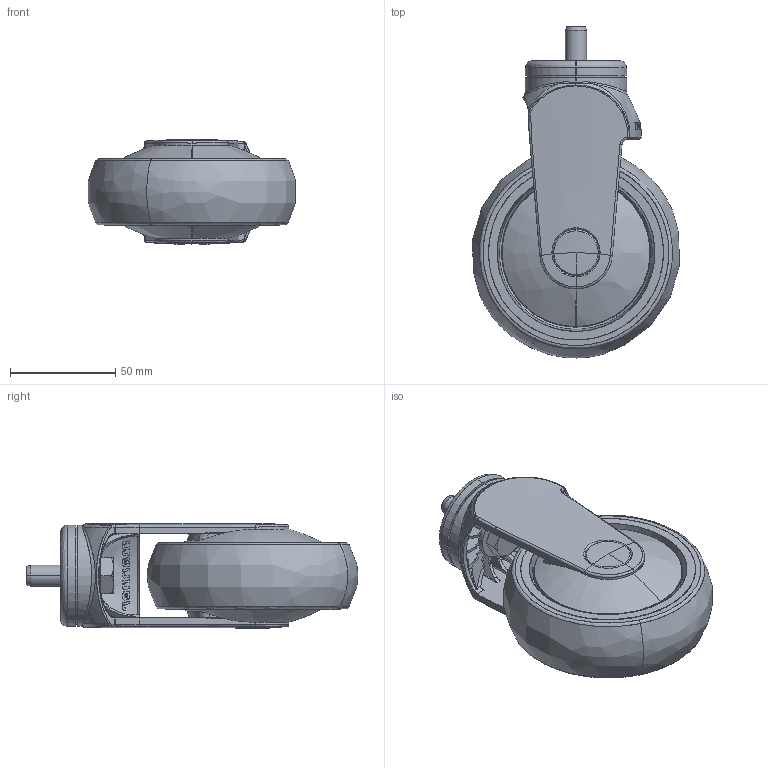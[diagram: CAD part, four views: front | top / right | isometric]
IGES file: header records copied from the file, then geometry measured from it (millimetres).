
Start section: SolidWorks IGES file using analytic representation for surfaces
Global section: file name: S:\Tyokansio\VL\301035_IGES.IGS; native system: SolidWorks 2011; preprocessor: SolidWorks 2011; author: VilleLa; date: 110622.130501; units: millimetre
Bounding box: 98.35 x 157.5 x 49.73 mm (x, y, z)
Surface area: 72454.8 mm2 (no closed solid volume)
Topology: 0 solids, 0 shells, 352 faces, 4866 edges, 4862 vertices
Faces by surface type: bspline 246, revolution 106
